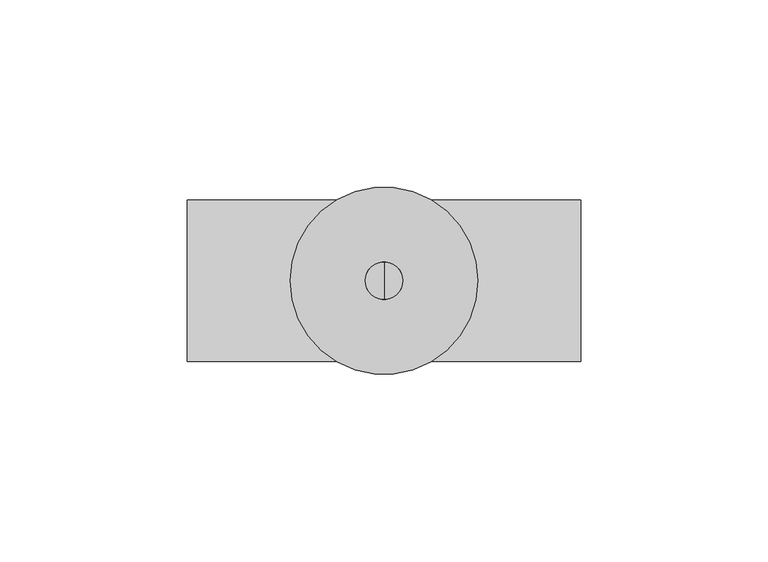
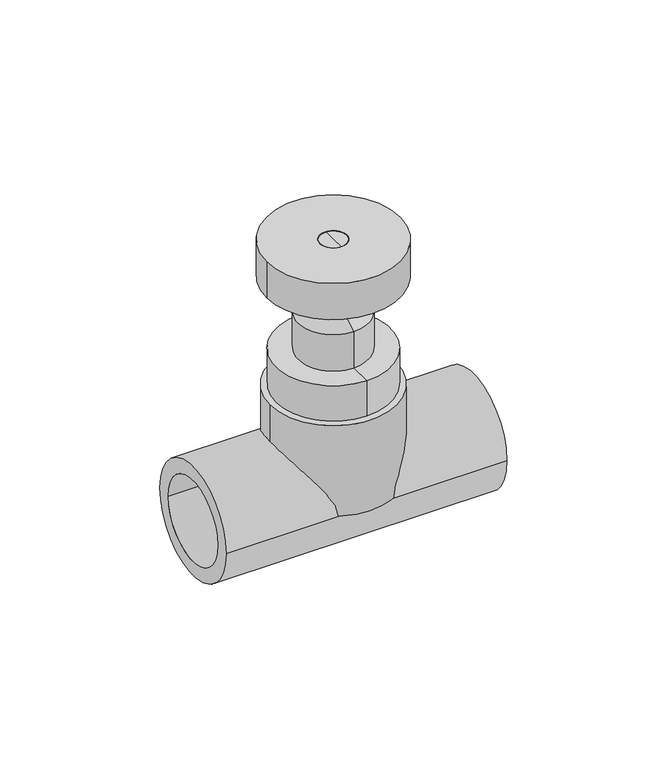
"""IFC4 building model written with IfcOpenShell, lengths in millimetres: valve geometry, EGB_VASEN_ PPR_Valvula de corte con volante WXR830 : Válvula de corte con volante WXR830."""

from ifc_helpers import new_model, si_unit, point, frame, origin, origin_with_axes, origin_2d, place, context, project, spatial, polyline, circle_curve, trimmed, segment, composite_curve, outline, extrude, source, transform, mapped, element, save
from ifc_brep_helpers import plane_surface, cylinder_surface, revolved_surface, advanced_brep


def valve_b3d92526(model_context):
    return source(origin(), model_context, "Body", "SolidModel", [
        extrude(outline(composite_curve([segment(trimmed(circle_curve(origin_2d(), 23.65), [point((-23.65, 0.0))], [point((23.65, 0.0))], False, "CARTESIAN"), True, "CONTINUOUS"), segment(trimmed(circle_curve(origin_2d(), 23.65), [point((23.65, 0.0))], [point((-23.65, 0.0))], False, "CARTESIAN"), True, "CONTINUOUS")], self_intersect=False)), origin_with_axes(), (0.0, 0.0, 1.0), 35.8),
        extrude(outline(composite_curve([segment(trimmed(circle_curve(origin_2d(), 21.5), [point((-21.5, 0.0))], [point((21.5, 0.0))], False, "CARTESIAN"), True, "CONTINUOUS"), segment(trimmed(circle_curve(origin_2d(), 21.5), [point((21.5, 0.0))], [point((-21.5, 0.0))], False, "CARTESIAN"), True, "CONTINUOUS")], self_intersect=False), holes=[composite_curve([segment(trimmed(circle_curve(origin_2d(), 16.0), [point((-16.0, 0.0))], [point((16.0, 0.0))], True, "CARTESIAN"), True, "CONTINUOUS"), segment(trimmed(circle_curve(origin_2d(), 16.0), [point((16.0, 0.0))], [point((-16.0, 0.0))], True, "CARTESIAN"), True, "CONTINUOUS")], self_intersect=False)]), frame((-52.5, 0.0, 0.0), z_axis=(1.0, 0.0, 0.0), x_axis=(0.0, 1.0, 0.0)), (0.0, 0.0, 1.0), 105.0),
        extrude(outline(composite_curve([segment(trimmed(circle_curve(origin_2d(), 25.0), [point((25.0, 0.0))], [point((-25.0, 0.0))], False, "CARTESIAN"), True, "CONTINUOUS"), segment(trimmed(circle_curve(origin_2d(), 25.0), [point((-25.0, 0.0))], [point((25.0, 0.0))], False, "CARTESIAN"), True, "CONTINUOUS")], self_intersect=False), holes=[composite_curve([segment(trimmed(circle_curve(origin_2d(), 5.0), [point((5.0, 0.0))], [point((-5.0, 0.0))], True, "CARTESIAN"), True, "CONTINUOUS"), segment(trimmed(circle_curve(origin_2d(), 5.0), [point((-5.0, 0.0))], [point((5.0, 0.0))], True, "CARTESIAN"), True, "CONTINUOUS")], self_intersect=False)]), frame((0.0, 0.0, 78.7), z_axis=(0.0, 0.0, 1.0), x_axis=(1.0, 0.0, 0.0)), (0.0, 0.0, 1.0), 14.3),
        advanced_brep(
        [(0.0, -13.25, 50.1), (0.0, 13.25, 50.1), (0.0, 21.5, 50.1), (0.0, -21.5, 50.1), (0.0, -13.25, 64.4), (0.0, 13.25, 64.4), (0.0, -5.0, 69.1272839), (0.0, 5.0, 69.1272839), (0.0, -5.0, 93.0), (0.0, 5.0, 93.0), (0.0, 0.0, 93.0), (0.0, -21.5, 35.8), (0.0, 21.5, 35.8), (0.0, 0.0, 35.8)],
        [
            (0, 1, circle_curve(frame((0.0, 0.0, 50.1), z_axis=(0.0, 0.0, -1.0), x_axis=(0.0, 1.0, 0.0)), 13.25)),
            (1, 2),
            (2, 3, circle_curve(frame((0.0, 0.0, 50.1), z_axis=(0.0, 0.0, 1.0), x_axis=(0.0, 1.0, 0.0)), 21.5)),
            (3, 0),
            (1, 0, circle_curve(frame((0.0, 0.0, 50.1), z_axis=(0.0, 0.0, -1.0), x_axis=(0.0, 1.0, 0.0)), 13.25)),
            (3, 2, circle_curve(frame((0.0, 0.0, 50.1), z_axis=(0.0, 0.0, 1.0), x_axis=(0.0, 1.0, 0.0)), 21.5)),
            (4, 5, circle_curve(frame((0.0, 0.0, 64.4), z_axis=(0.0, 0.0, -1.0), x_axis=(0.0, 1.0, 0.0)), 13.25)),
            (5, 1),
            (0, 4),
            (5, 4, circle_curve(frame((0.0, 0.0, 64.4), z_axis=(0.0, 0.0, -1.0), x_axis=(0.0, 1.0, 0.0)), 13.25)),
            (6, 7, circle_curve(frame((0.0, 0.0, 69.1272839), z_axis=(0.0, 0.0, -1.0), x_axis=(0.0, 1.0, 0.0)), 5.0)),
            (7, 5),
            (4, 6),
            (7, 6, circle_curve(frame((0.0, 0.0, 69.1272839), z_axis=(0.0, 0.0, -1.0), x_axis=(0.0, 1.0, 0.0)), 5.0)),
            (8, 9, circle_curve(frame((0.0, 0.0, 93.0), z_axis=(0.0, 0.0, -1.0), x_axis=(0.0, 1.0, 0.0)), 5.0)),
            (9, 7),
            (6, 8),
            (9, 8, circle_curve(frame((0.0, 0.0, 93.0), z_axis=(0.0, 0.0, -1.0), x_axis=(0.0, 1.0, 0.0)), 5.0)),
            (10, 9),
            (8, 10),
            (11, 12, circle_curve(frame((0.0, 0.0, 35.8), z_axis=(0.0, 0.0, -1.0), x_axis=(0.0, 1.0, 0.0)), 21.5)),
            (12, 13),
            (13, 11),
            (12, 11, circle_curve(frame((0.0, 0.0, 35.8), z_axis=(0.0, 0.0, -1.0), x_axis=(0.0, 1.0, 0.0)), 21.5)),
            (2, 12),
            (11, 3),
        ],
        [
            plane_surface(frame((0.0, 0.0, 50.1), z_axis=(0.0, 0.0, 1.0), x_axis=(0.0, 1.0, 0.0))),
            cylinder_surface(frame((0.0, 0.0, 108.0), z_axis=(0.0, 0.0, 1.0), x_axis=(0.0, 1.0, 0.0)), 13.25),
            revolved_surface(polyline([(0.0, 13.25, 64.4), (0.0, 5.0, 69.1272839)]), (0.0, 0.0, 108.0), (0.0, 0.0, 1.0)),
            cylinder_surface(frame((0.0, 0.0, 108.0), z_axis=(0.0, 0.0, 1.0), x_axis=(0.0, 1.0, 0.0)), 5.0),
            plane_surface(frame((0.0, 0.0, 93.0), z_axis=(0.0, 0.0, 1.0), x_axis=(0.0, 1.0, 0.0))),
            plane_surface(frame((0.0, 0.0, 35.8), z_axis=(0.0, 0.0, -1.0), x_axis=(0.0, 1.0, 0.0))),
            cylinder_surface(frame((0.0, 0.0, 108.0), z_axis=(0.0, 0.0, 1.0), x_axis=(0.0, 1.0, 0.0)), 21.5),
        ],
        [
            (0, [[1, 2, 3, 4]]),
            (0, [[5, -4, 6, -2]]),
            (1, [[7, 8, -1, 9]]),
            (1, [[10, -9, -5, -8]]),
            (2, [[11, 12, -7, 13]]),
            (2, [[14, -13, -10, -12]]),
            (3, [[15, 16, -11, 17]]),
            (3, [[18, -17, -14, -16]]),
            (4, [[19, -15, 20]]),
            (4, [[-20, -18, -19]]),
            (5, [[21, 22, 23]]),
            (5, [[24, -23, -22]]),
            (6, [[-3, 25, -21, 26]]),
            (6, [[-6, -26, -24, -25]]),
        ],
    ),
    ])


if __name__ == "__main__":
    model = new_model("IFC4")
    model_context = context("Model", 3, world=origin())
    ifc_project = project(units=[si_unit("LENGTHUNIT", "METRE", prefix="MILLI")], contexts=[model_context])
    site = spatial("IfcSite", under=ifc_project)
    building = spatial("IfcBuilding", under=site)
    placement = place(None, origin())
    valve_shape = valve_b3d92526(model_context)
    element("IfcValve", 1, ObjectType="EGB_VASEN_ PPR_Valvula de corte con volante WXR830 : Válvula de corte con volante WXR830", at=placement, inside=building, context=model_context, shape_type="MappedRepresentation", body=[
        mapped(valve_shape, transform((0.0, 0.0, 0.0), x_axis=(1.0, 0.0, 0.0), y_axis=(0.0, 1.0, 0.0), z_axis=(0.0, 0.0, 1.0))),
    ])
    save(model, "model.ifc")
